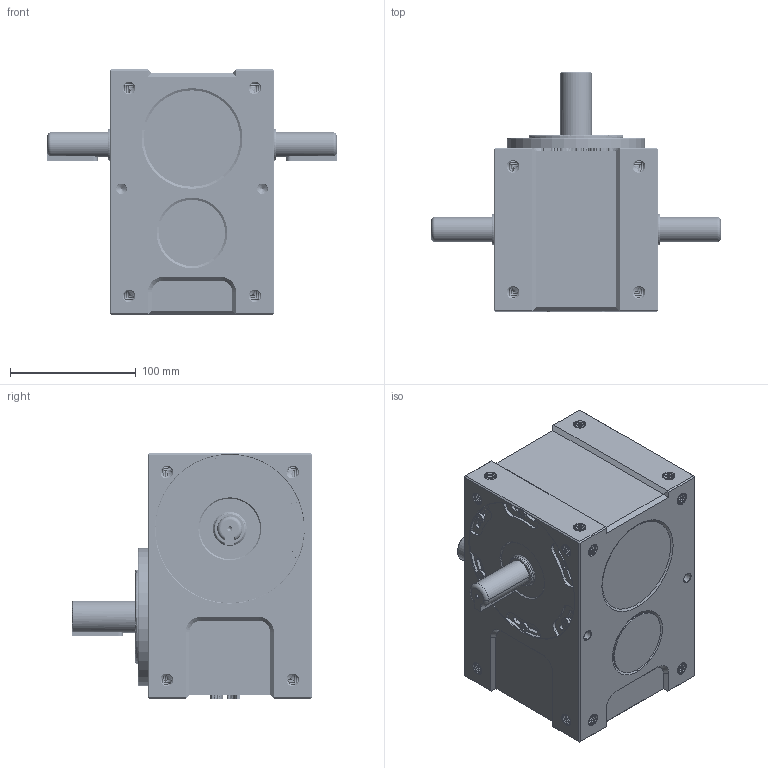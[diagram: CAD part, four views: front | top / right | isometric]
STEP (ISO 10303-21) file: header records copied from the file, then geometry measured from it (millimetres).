
FILE_DESCRIPTION (( 'STEP AP214' ), '1' );
FILE_NAME ('ER-RU70DE英锐凸轮分割器3D壳体和法兰面加销孔标准图纸(电话15062628977)AA.STEP', '2022-10-18T06:45:14', ( '微软用户' ), ( '微软中国' ), 'SwSTEP 2.0', 'SolidWorks 2017', '' );
FILE_SCHEMA (( 'AUTOMOTIVE_DESIGN' ));
Length unit declared in the file: millimetre
Products named in the file (1): ER-RU70DE英锐凸轮分割器3D壳体和法兰面加销孔标准图纸(电话15062628977)AA
Bounding box: 230 x 190 x 195 mm (x, y, z)
Volume: 3280756.5 mm3; surface area: 176647.3 mm2
Topology: 1 solids, 2 shells, 2309 faces, 6271 edges, 4069 vertices
Faces by surface type: cylinder 920, bspline 636, plane 561, cone 178, torus 14
Entity records: 248797 total; most frequent: CARTESIAN_POINT 195356, ORIENTED_EDGE 12490, DIRECTION 7249, EDGE_CURVE 6245, VERTEX_POINT 4069, AXIS2_PLACEMENT_3D 2503, EDGE_LOOP 2472, FACE_OUTER_BOUND 2309
